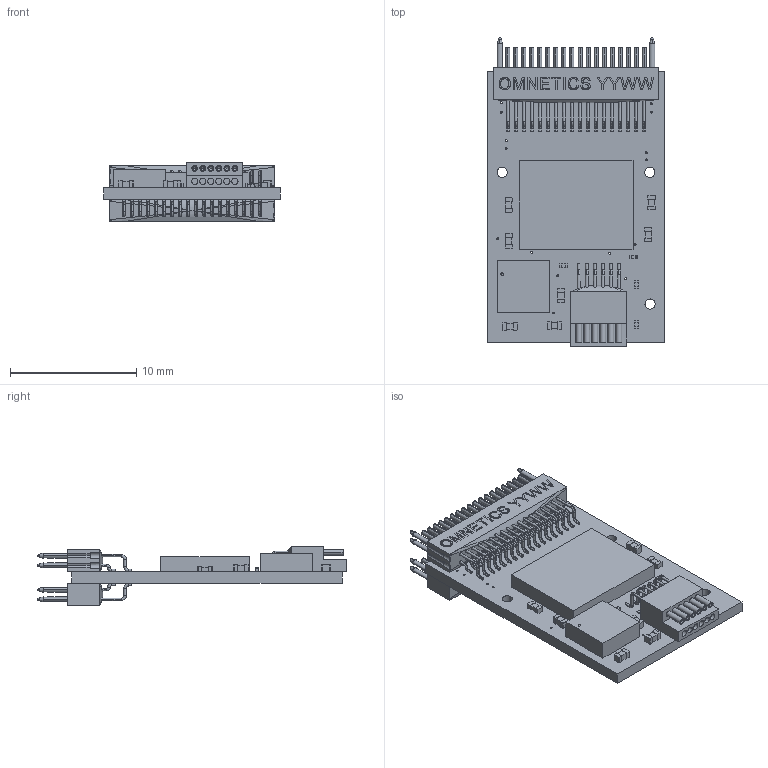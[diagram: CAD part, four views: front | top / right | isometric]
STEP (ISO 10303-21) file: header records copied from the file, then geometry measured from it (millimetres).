
FILE_DESCRIPTION (( 'STEP AP214' ), '1' );
FILE_NAME ('RHD2164_accel_BGA.STEP', '2022-03-21T18:43:42', ( '' ), ( '' ), 'SwSTEP 2.0', 'SolidWorks 2022', '' );
FILE_SCHEMA (( 'AUTOMOTIVE_DESIGN' ));
Length unit declared in the file: inch
Products named in the file (9): RHD2164_accel_bga_PCB; ADXL335; 0201c_0201; RHD2164_accel_BGA; 0402r_1430758; A79623-001; 0402c_2320560; RHD2164_bga; A79025-001
Assembly tree (17 placements, depth 2):
  RHD2164_accel_BGA
    RHD2164_accel_bga_PCB
    0402c_2320560  x5
    0201c_0201  x4
    0402r_1430758  x2
    A79025-001  x2
    A79623-001
    RHD2164_bga
    ADXL335
Bounding box: 13.97 x 24.42 x 4.74 mm (x, y, z)
Volume: 403 mm3; surface area: 1884.6 mm2
Topology: 33 solids, 49 shells, 2438 faces, 6046 edges, 3727 vertices
Faces by surface type: cylinder 812, plane 790, bspline 632, cone 172, sphere 32
Entity records: 55917 total; most frequent: CARTESIAN_POINT 17584, ORIENTED_EDGE 6590, DIRECTION 6003, EDGE_CURVE 3299, AXIS2_PLACEMENT_3D 2351, VERTEX_POINT 2127, EDGE_LOOP 1638, ADVANCED_FACE 1386
